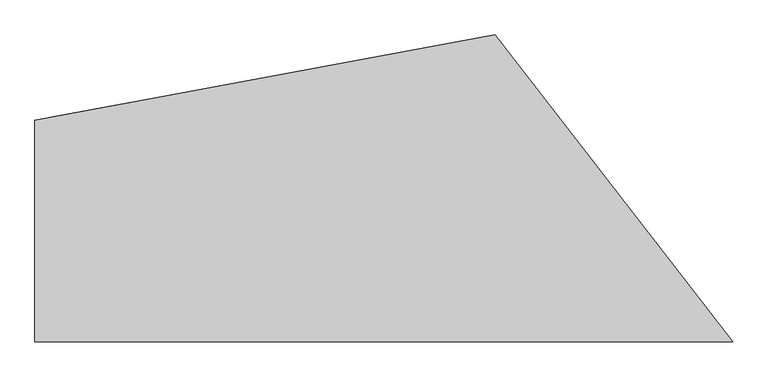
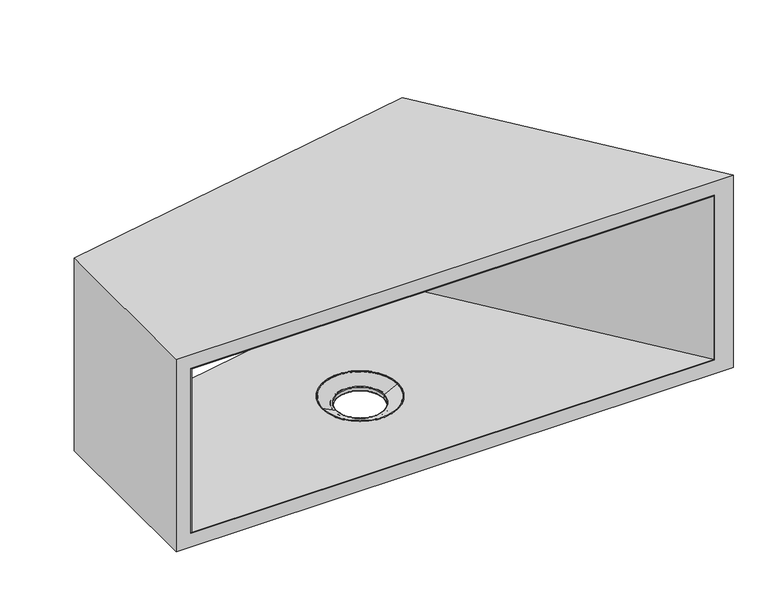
"""IFC4 building model written with IfcOpenShell, lengths in millimetres: furniture geometry, Steelcase Coalesse - Sebastopol - Table - Large : 16'' H - With Gromment."""

import ifcopenshell
import ifcopenshell.guid

model = None  # the IFC model being written
_history = None  # IfcOwnerHistory: only IFC2X3 demands one
_inside = {}  # id of a spatial element -> (the spatial element, [elements in it])
_under = {}  # id of a project, library or spatial element -> (it, [spatial elements below it])
_declared = {}  # id of a project -> (the project, [libraries it declares])
_typed = {}  # id of a type object -> (the type object, [elements of that type])
_made_of = {}  # id of a material, layer set ... -> (it, [elements and type objects made of it])


def new_model(schema):
    """Start an empty IFC model of exactly this schema.

    Asked for "IFC4X3", IfcOpenShell would pick the latest addendum, in which some entities
    have other attributes; the version numbers below select the first issue.
    IFC2X3 requires an IfcOwnerHistory on every rooted entity: one is made here for all.
    """
    global model, _history
    if schema == "IFC4X3":
        model = ifcopenshell.file(schema_version=(4, 3, 0, 0))
    else:
        model = ifcopenshell.file(schema=schema)
    _inside.clear()
    _under.clear()
    _declared.clear()
    _typed.clear()
    _made_of.clear()
    _history = None
    if model.schema == "IFC2X3":
        org = make("IfcOrganization", Name="unknown")
        user = make(
            "IfcPersonAndOrganization",
            ThePerson=make("IfcPerson", FamilyName="unknown"),
            TheOrganization=org,
        )
        app = make(
            "IfcApplication",
            ApplicationDeveloper=org,
            Version="unknown",
            ApplicationFullName="unknown",
            ApplicationIdentifier="unknown",
        )
        _history = make(
            "IfcOwnerHistory",
            OwningUser=user,
            OwningApplication=app,
            ChangeAction="ADDED",
            CreationDate=0,
        )
    return model


def make(cls, **values):
    """One entity of the class cls with the attributes given. An attribute that is None is left unset."""
    return model.create_entity(
        cls, **{name: value for name, value in values.items() if value is not None}
    )


def rooted(cls, **values):
    """An entity with a GlobalId (a new one), such as an element, a storey or a relation."""
    return make(cls, GlobalId=ifcopenshell.guid.new(), OwnerHistory=_history, **values)


def si_unit(unit_type, name, prefix=None):
    """IfcSIUnit, for example si_unit("LENGTHUNIT", "METRE", prefix="MILLI")."""
    return make("IfcSIUnit", UnitType=unit_type, Prefix=prefix, Name=name)


def assignment(units):
    """IfcUnitAssignment: the units of a project."""
    return None if units is None else make("IfcUnitAssignment", Units=units)


def point(xyz):
    """IfcCartesianPoint."""
    return None if xyz is None else make("IfcCartesianPoint", Coordinates=xyz)


def direction(xyz):
    """IfcDirection."""
    return None if xyz is None else make("IfcDirection", DirectionRatios=xyz)


def frame(location, z_axis=None, x_axis=None):
    """IfcAxis2Placement3D, a coordinate frame: its origin and axes. An axis left out is left unset."""
    return make(
        "IfcAxis2Placement3D",
        Location=point(location),
        Axis=direction(z_axis),
        RefDirection=direction(x_axis),
    )


def frame_2d(location, x_axis=None):
    """IfcAxis2Placement2D, a coordinate frame in the plane: its origin and x axis."""
    return make(
        "IfcAxis2Placement2D", Location=point(location), RefDirection=direction(x_axis)
    )


def origin():
    """The frame at (0, 0, 0) with its axes left unset."""
    return frame((0.0, 0.0, 0.0))


def origin_with_axes():
    """The frame at (0, 0, 0) with the z axis (0, 0, 1) and the x axis (1, 0, 0) written out."""
    return frame((0.0, 0.0, 0.0), z_axis=(0.0, 0.0, 1.0), x_axis=(1.0, 0.0, 0.0))


def place(relative_to, where):
    """IfcLocalPlacement: puts the frame where relative to a parent placement (None: the world)."""
    return make(
        "IfcLocalPlacement", PlacementRelTo=relative_to, RelativePlacement=where
    )


def context(
    kind, dimensions, precision=None, world=None, true_north=None, identifier=None
):
    """IfcGeometricRepresentationContext, for example the 3D "Model" context."""
    return make(
        "IfcGeometricRepresentationContext",
        ContextIdentifier=identifier,
        ContextType=kind,
        CoordinateSpaceDimension=dimensions,
        Precision=precision,
        WorldCoordinateSystem=world,
        TrueNorth=true_north,
    )


def project(units=None, contexts=None):
    """IfcProject with its units and contexts."""
    return rooted(
        "IfcProject",
        Name="project",
        RepresentationContexts=contexts,
        UnitsInContext=assignment(units),
    )


def spatial(cls, under=None, at=None, **own):
    """A site, building, storey or space (cls), placed at a placement, below another one or the project."""
    s = rooted(cls, ObjectPlacement=at, **own)
    if under is not None:
        _under.setdefault(under.id(), (under, []))[1].append(s)
    return s


def polyline(points):
    """IfcPolyline through the points."""
    return make("IfcPolyline", Points=[point(p) for p in points])


def circle_curve(where, radius):
    """IfcCircle in the frame where."""
    return make("IfcCircle", Position=where, Radius=radius)


def ellipse_curve(where, semi_axis1, semi_axis2):
    """IfcEllipse in the frame where."""
    return make(
        "IfcEllipse", Position=where, SemiAxis1=semi_axis1, SemiAxis2=semi_axis2
    )


def trimmed(basis, trim1, trim2, sense, master):
    """IfcTrimmedCurve: the piece of a basis curve between two trims."""
    return make(
        "IfcTrimmedCurve",
        BasisCurve=basis,
        Trim1=trim1,
        Trim2=trim2,
        SenseAgreement=sense,
        MasterRepresentation=master,
    )


def segment(curve, same_sense, transition):
    """IfcCompositeCurveSegment."""
    return make(
        "IfcCompositeCurveSegment",
        Transition=transition,
        SameSense=same_sense,
        ParentCurve=curve,
    )


def composite_curve(segments, self_intersect=None):
    """IfcCompositeCurve: segments joined end to end."""
    return make("IfcCompositeCurve", Segments=segments, SelfIntersect=self_intersect)


def outline(outer, holes=None, kind="AREA"):
    """IfcArbitraryClosedProfileDef: a profile drawn as a closed curve; with holes, ...WithVoids."""
    if holes is None:
        return make("IfcArbitraryClosedProfileDef", ProfileType=kind, OuterCurve=outer)
    return make(
        "IfcArbitraryProfileDefWithVoids",
        ProfileType=kind,
        OuterCurve=outer,
        InnerCurves=holes,
    )


def extrude(swept, where, along, depth):
    """IfcExtrudedAreaSolid: the profile swept, set in the frame where, extruded along a direction by depth."""
    return make(
        "IfcExtrudedAreaSolid",
        SweptArea=swept,
        Position=where,
        ExtrudedDirection=direction(along),
        Depth=depth,
    )


def shape(context_of_items, identifier, shape_type, items):
    """IfcShapeRepresentation: the items that make up one representation, for example the "Body"."""
    return make(
        "IfcShapeRepresentation",
        ContextOfItems=context_of_items,
        RepresentationIdentifier=identifier,
        RepresentationType=shape_type,
        Items=items,
    )


def source(mapping_origin, context_of_items, identifier, shape_type, items):
    """IfcRepresentationMap: a shape defined once, which mapped items show again and again."""
    return make(
        "IfcRepresentationMap",
        MappingOrigin=mapping_origin,
        MappedRepresentation=shape(context_of_items, identifier, shape_type, items),
    )


def transform(
    local_origin,
    x_axis=None,
    y_axis=None,
    z_axis=None,
    scale=None,
    scale2=None,
    scale3=None,
    uniform=True,
):
    """IfcCartesianTransformationOperator3D, or its non-uniform kind. x_axis, y_axis, z_axis: its Axis1, 2, 3."""
    if uniform:
        return make(
            "IfcCartesianTransformationOperator3D",
            Axis1=direction(x_axis),
            Axis2=direction(y_axis),
            LocalOrigin=point(local_origin),
            Scale=scale,
            Axis3=direction(z_axis),
        )
    return make(
        "IfcCartesianTransformationOperator3DnonUniform",
        Axis1=direction(x_axis),
        Axis2=direction(y_axis),
        LocalOrigin=point(local_origin),
        Scale=scale,
        Axis3=direction(z_axis),
        Scale2=scale2,
        Scale3=scale3,
    )


def mapped(mapping_source, mapping_target):
    """IfcMappedItem: shows the shape of a source again, moved by a transform."""
    return make(
        "IfcMappedItem", MappingSource=mapping_source, MappingTarget=mapping_target
    )


def made_of(thing, what):
    """Note that an element or type object is made of a material, layer set ...; save() writes the relation."""
    if what is not None:
        _made_of.setdefault(what.id(), (what, []))[1].append(thing)
    return thing


def element(
    cls,
    number,
    at=None,
    inside=None,
    cuts=None,
    type_object=None,
    material=None,
    context=None,
    identifier="Body",
    shape_type=None,
    held_by="IfcProductDefinitionShape",
    body=None,
    shapes=None,
    **own,
):
    """One element of the class cls, such as IfcWall. Its Tag is "e" and its number.

    at: its placement. inside: the storey or other place that contains it. cuts: it is an
    opening in that element (IfcRelVoidsElement). A single representation is given by context,
    identifier, shape_type and body (its items); several are given by shapes. held_by: the class
    of the entity that holds the representations. save() writes the other relations.
    """
    e = rooted(cls, Tag="e%d" % number, ObjectPlacement=at, **own)
    if body is not None:
        shapes = [shape(context, identifier, shape_type, body)]
    if shapes is not None:
        e.Representation = make(held_by, Representations=shapes)
    if inside is not None:
        _inside.setdefault(inside.id(), (inside, []))[1].append(e)
    if cuts is not None:
        rooted(
            "IfcRelVoidsElement", RelatingBuildingElement=cuts, RelatedOpeningElement=e
        )
    if type_object is not None:
        _typed.setdefault(type_object.id(), (type_object, []))[1].append(e)
    return made_of(e, material)


def aggregate(whole, parts):
    """IfcRelAggregates: a whole, such as a stair, and the parts it consists of."""
    return rooted("IfcRelAggregates", RelatingObject=whole, RelatedObjects=parts)


def save(model, path):
    """Write the relations noted so far, then the file.

    IfcRelAggregates (storeys below a building ...), IfcRelContainedInSpatialStructure (elements
    in a storey), IfcRelDefinesByType, IfcRelAssociatesMaterial and IfcRelDeclares: one each for
    every whole, place, type object, material and project.
    """
    for whole, parts in _under.values():
        aggregate(whole, parts)
    for where, things in _inside.values():
        rooted(
            "IfcRelContainedInSpatialStructure",
            RelatedElements=things,
            RelatingStructure=where,
        )
    for kind, things in _typed.values():
        rooted("IfcRelDefinesByType", RelatedObjects=things, RelatingType=kind)
    for what, things in _made_of.values():
        rooted("IfcRelAssociatesMaterial", RelatedObjects=things, RelatingMaterial=what)
    for by, libraries in _declared.values():
        rooted("IfcRelDeclares", RelatingContext=by, RelatedDefinitions=libraries)
    model.write(path)


def plane_surface(at):
    """IfcPlane: the flat surface through the origin of the frame at, square to its z axis."""
    return make("IfcPlane", Position=at)


def cylinder_surface(at, radius):
    """IfcCylindricalSurface: all points at the distance radius from the z axis of the frame at."""
    return make("IfcCylindricalSurface", Position=at, Radius=radius)


def revolved_surface(curve, axis_point, axis_direction):
    """IfcSurfaceOfRevolution: the curve turned about the line through axis_point along axis_direction."""
    return make(
        "IfcSurfaceOfRevolution",
        SweptCurve=make("IfcArbitraryOpenProfileDef", ProfileType="CURVE", Curve=curve),
        AxisPosition=make("IfcAxis1Placement", Location=point(axis_point), Axis=direction(axis_direction)),
    )


def advanced_brep(points, edges, surfaces, faces):
    """IfcAdvancedBrep: a solid bounded by faces that lie on surfaces and meet in shared edges.

    An edge is (start, end): straight between two places in points (the first is 0);
    or (start, end, curve); or (start, end, curve, False) where it runs against its curve.
    A face is (place in surfaces, loops), or (place, loops, False) where it looks against
    its surface's normal. A loop lists edges by number (the first is 1), with a minus sign
    where the edge is run from its end to its start. The first loop is the outer one.
    """
    corners = [point(p) for p in points]
    vertices = [make("IfcVertexPoint", VertexGeometry=c) for c in corners]
    made = []
    for start, end, *more in edges:
        made.append(
            make(
                "IfcEdgeCurve",
                EdgeStart=vertices[start],
                EdgeEnd=vertices[end],
                EdgeGeometry=more[0] if more else make("IfcPolyline", Points=[corners[start], corners[end]]),
                SameSense=more[1] if len(more) > 1 else True,
            )
        )
    hull = []
    for where, loops, *sense in faces:
        bounds = []
        for j, loop in enumerate(loops):
            ring = [make("IfcOrientedEdge", EdgeElement=made[abs(k) - 1], Orientation=k > 0) for k in loop]
            bounds.append(
                make(
                    "IfcFaceOuterBound" if j == 0 else "IfcFaceBound",
                    Bound=make("IfcEdgeLoop", EdgeList=ring),
                    Orientation=True,
                )
            )
        hull.append(make("IfcAdvancedFace", Bounds=bounds, FaceSurface=surfaces[where], SameSense=sense[0] if sense else True))
    return make("IfcAdvancedBrep", Outer=make("IfcClosedShell", CfsFaces=hull))


def furniture_f5551eca(model_context):
    return source(origin(), model_context, "Body", "SolidModel", [
        extrude(outline(polyline([(-386.6129041, 451.557615), (-36.5419736, 0.0), (-1012.5201736, 0.0), (-1012.5201736, 335.5525594), (-386.6129041, 451.557615)]), holes=[composite_curve([segment(trimmed(circle_curve(frame_2d((-584.2000242, 196.215)), 69.5528681), [point((-514.6471561, 196.215))], [point((-653.7528923, 196.215))], True, "CARTESIAN"), True, "CONTINUOUS"), segment(trimmed(circle_curve(frame_2d((-584.2000242, 196.215)), 69.5528681), [point((-653.7528923, 196.215))], [point((-514.6471561, 196.215))], True, "CARTESIAN"), True, "CONTINUOUS")], self_intersect=False)]), frame((0.0, 0.0, 53.0098), z_axis=(0.0, 0.0, 1.0), x_axis=(1.0, 0.0, 0.0)), (0.0, 0.0, 1.0), 1.524),
        advanced_brep(
        [(-628.4624687, 196.215, 41.2015362), (-539.9375798, 196.215, 41.2015362), (-539.3083862, 196.215, 42.1809258), (-629.0916623, 196.215, 42.1809258), (-628.2451274, 196.215, 34.9776975), (-540.154921, 196.215, 34.9776975), (-630.708799, 196.215, 34.9776975), (-537.6912494, 196.215, 34.9776975), (-646.7376888, 196.215, 34.9776975), (-521.6623596, 196.215, 34.9776975), (-646.7376888, 196.215, 36.7445615), (-521.6623596, 196.215, 36.7445615), (-643.8349112, 196.215, 39.7504757), (-524.5651373, 196.215, 39.7504757), (-633.7164271, 196.215, 40.103821), (-534.6836213, 196.215, 40.103821), (-633.4122685, 196.215, 41.5347748), (-534.98778, 196.215, 41.5347748), (-652.7804402, 196.215, 50.9812633), (-515.6196082, 196.215, 50.9812633), (-653.2468556, 196.215, 51.727684), (-515.1531928, 196.215, 51.727684), (-653.2468556, 196.215, 53.0098), (-515.1531928, 196.215, 53.0098), (-656.1507851, 196.215, 53.0098), (-512.2492634, 196.215, 53.0098), (-656.1507851, 196.215, 54.0178131), (-512.2492634, 196.215, 54.0178131), (-654.6374395, 196.215, 54.9531343), (-513.7626089, 196.215, 54.9531343)],
        [
            (0, 1, circle_curve(frame((-584.2000242, 196.215, 41.2015362), z_axis=(0.0, 0.0, -1.0), x_axis=(1.0, 0.0, 0.0)), 44.2624445)),
            (1, 2, circle_curve(frame((-538.7988356, 196.215, 41.1617704), z_axis=(0.0, 1.0, 0.0), x_axis=(0.0, 0.0, 1.0)), 1.1394383)),
            (2, 3, circle_curve(frame((-584.2000242, 196.215, 42.1809258), z_axis=(0.0, 0.0, 1.0), x_axis=(1.0, 0.0, 0.0)), 44.891638)),
            (3, 0, circle_curve(frame((-629.6012128, 196.215, 41.1617704), z_axis=(0.0, 1.0, 0.0), x_axis=(0.0, 0.0, 1.0)), 1.1394383)),
            (1, 0, circle_curve(frame((-584.2000242, 196.215, 41.2015362), z_axis=(0.0, 0.0, -1.0), x_axis=(1.0, 0.0, 0.0)), 44.2624445)),
            (3, 2, circle_curve(frame((-584.2000242, 196.215, 42.1809258), z_axis=(0.0, 0.0, 1.0), x_axis=(1.0, 0.0, 0.0)), 44.891638)),
            (4, 5, circle_curve(frame((-584.2000242, 196.215, 34.9776975), z_axis=(0.0, 0.0, -1.0), x_axis=(1.0, 0.0, 0.0)), 44.0451032)),
            (5, 1),
            (0, 4),
            (5, 4, circle_curve(frame((-584.2000242, 196.215, 34.9776975), z_axis=(0.0, 0.0, -1.0), x_axis=(1.0, 0.0, 0.0)), 44.0451032)),
            (6, 7, circle_curve(frame((-584.2000242, 196.215, 34.9776975), z_axis=(0.0, 0.0, -1.0), x_axis=(1.0, 0.0, 0.0)), 46.5087748)),
            (7, 5, circle_curve(frame((-538.9230852, 196.215, 34.9346809), z_axis=(0.0, 1.0, 0.0), x_axis=(0.0, 0.0, 1.0)), 1.2325866)),
            (4, 6, circle_curve(frame((-629.4769632, 196.215, 34.9346809), z_axis=(0.0, 1.0, 0.0), x_axis=(0.0, 0.0, 1.0)), 1.2325866)),
            (7, 6, circle_curve(frame((-584.2000242, 196.215, 34.9776975), z_axis=(0.0, 0.0, -1.0), x_axis=(1.0, 0.0, 0.0)), 46.5087748)),
            (8, 9, circle_curve(frame((-584.2000242, 196.215, 34.9776975), z_axis=(0.0, 0.0, -1.0), x_axis=(1.0, 0.0, 0.0)), 62.5376646)),
            (9, 7),
            (6, 8),
            (9, 8, circle_curve(frame((-584.2000242, 196.215, 34.9776975), z_axis=(0.0, 0.0, -1.0), x_axis=(1.0, 0.0, 0.0)), 62.5376646)),
            (10, 11, circle_curve(frame((-584.2000242, 196.215, 36.7445615), z_axis=(0.0, 0.0, -1.0), x_axis=(1.0, 0.0, 0.0)), 62.5376646)),
            (11, 9),
            (8, 10),
            (11, 10, circle_curve(frame((-584.2000242, 196.215, 36.7445615), z_axis=(0.0, 0.0, -1.0), x_axis=(1.0, 0.0, 0.0)), 62.5376646)),
            (12, 13, circle_curve(frame((-584.2000242, 196.215, 39.7504757), z_axis=(0.0, 0.0, -1.0), x_axis=(1.0, 0.0, 0.0)), 59.634887)),
            (13, 11, circle_curve(frame((-524.6701061, 196.215, 36.7445615), z_axis=(0.0, 1.0, 0.0), x_axis=(0.0, 0.0, 1.0)), 3.0077465)),
            (10, 12, circle_curve(frame((-643.7299423, 196.215, 36.7445615), z_axis=(0.0, 1.0, 0.0), x_axis=(0.0, 0.0, 1.0)), 3.0077465)),
            (13, 12, circle_curve(frame((-584.2000242, 196.215, 39.7504757), z_axis=(0.0, 0.0, -1.0), x_axis=(1.0, 0.0, 0.0)), 59.634887)),
            (14, 15, circle_curve(frame((-584.2000242, 196.215, 40.103821), z_axis=(0.0, 0.0, -1.0), x_axis=(1.0, 0.0, 0.0)), 49.5164029)),
            (15, 13),
            (12, 14),
            (15, 14, circle_curve(frame((-584.2000242, 196.215, 40.103821), z_axis=(0.0, 0.0, -1.0), x_axis=(1.0, 0.0, 0.0)), 49.5164029)),
            (16, 17, circle_curve(frame((-584.2000242, 196.215, 41.5347748), z_axis=(0.0, 0.0, -1.0), x_axis=(1.0, 0.0, 0.0)), 49.2122443)),
            (17, 15, circle_curve(frame((-534.6573122, 196.215, 40.8572155), z_axis=(0.0, -1.0, 0.0), x_axis=(0.0, 0.0, 1.0)), 0.7538537)),
            (14, 16, circle_curve(frame((-633.7427362, 196.215, 40.8572155), z_axis=(0.0, -1.0, 0.0), x_axis=(0.0, 0.0, 1.0)), 0.7538537)),
            (17, 16, circle_curve(frame((-584.2000242, 196.215, 41.5347748), z_axis=(0.0, 0.0, -1.0), x_axis=(1.0, 0.0, 0.0)), 49.2122443)),
            (18, 19, circle_curve(frame((-584.2000242, 196.215, 50.9812633), z_axis=(0.0, 0.0, -1.0), x_axis=(1.0, 0.0, 0.0)), 68.580416)),
            (19, 17),
            (16, 18),
            (19, 18, circle_curve(frame((-584.2000242, 196.215, 50.9812633), z_axis=(0.0, 0.0, -1.0), x_axis=(1.0, 0.0, 0.0)), 68.580416)),
            (20, 21, circle_curve(frame((-584.2000242, 196.215, 51.727684), z_axis=(0.0, 0.0, -1.0), x_axis=(1.0, 0.0, 0.0)), 69.0468314)),
            (21, 19, circle_curve(frame((-515.9836619, 196.215, 51.727684), z_axis=(0.0, 1.0, 0.0), x_axis=(0.0, 0.0, 1.0)), 0.8304691)),
            (18, 20, circle_curve(frame((-652.4163865, 196.215, 51.727684), z_axis=(0.0, 1.0, 0.0), x_axis=(0.0, 0.0, 1.0)), 0.8304691)),
            (21, 20, circle_curve(frame((-584.2000242, 196.215, 51.727684), z_axis=(0.0, 0.0, -1.0), x_axis=(1.0, 0.0, 0.0)), 69.0468314)),
            (22, 23, circle_curve(frame((-584.2000242, 196.215, 53.0098), z_axis=(0.0, 0.0, -1.0), x_axis=(1.0, 0.0, 0.0)), 69.0468314)),
            (23, 21),
            (20, 22),
            (23, 22, circle_curve(frame((-584.2000242, 196.215, 53.0098), z_axis=(0.0, 0.0, -1.0), x_axis=(1.0, 0.0, 0.0)), 69.0468314)),
            (24, 25, circle_curve(frame((-584.2000242, 196.215, 53.0098), z_axis=(0.0, 0.0, -1.0), x_axis=(1.0, 0.0, 0.0)), 71.9507609)),
            (25, 23),
            (22, 24),
            (25, 24, circle_curve(frame((-584.2000242, 196.215, 53.0098), z_axis=(0.0, 0.0, -1.0), x_axis=(1.0, 0.0, 0.0)), 71.9507609)),
            (26, 27, circle_curve(frame((-584.2000242, 196.215, 54.0178131), z_axis=(0.0, 0.0, -1.0), x_axis=(1.0, 0.0, 0.0)), 71.9507609)),
            (27, 25),
            (24, 26),
            (27, 26, circle_curve(frame((-584.2000242, 196.215, 54.0178131), z_axis=(0.0, 0.0, -1.0), x_axis=(1.0, 0.0, 0.0)), 71.9507609)),
            (28, 29, circle_curve(frame((-584.2000242, 196.215, 54.9531343), z_axis=(0.0, 0.0, -1.0), x_axis=(1.0, 0.0, 0.0)), 70.4374153)),
            (29, 27, circle_curve(frame((-513.2949732, 196.215, 54.0178131), z_axis=(0.0, 1.0, 0.0), x_axis=(0.0, 0.0, 1.0)), 1.0457098)),
            (26, 28, circle_curve(frame((-655.1050753, 196.215, 54.0178131), z_axis=(0.0, 1.0, 0.0), x_axis=(0.0, 0.0, 1.0)), 1.0457098)),
            (29, 28, circle_curve(frame((-584.2000242, 196.215, 54.9531343), z_axis=(0.0, 0.0, -1.0), x_axis=(1.0, 0.0, 0.0)), 70.4374153)),
            (2, 29),
            (28, 3),
        ],
        [
            revolved_surface(trimmed(ellipse_curve(frame((-538.7988356, 196.215, 41.1617704), z_axis=(0.0, -1.0, 0.0), x_axis=(0.0, 0.0, 1.0)), 1.1394383, 1.1394383), [point((-539.3083862, 196.215, 42.1809258))], [point((-539.9375798, 196.215, 41.2015362))], True, "CARTESIAN"), (-584.2000242, 196.215, 34.9776975), (0.0, 0.0, 1.0)),
            revolved_surface(polyline([(-539.9375798, 196.215, 41.2015362), (-540.154921, 196.215, 34.9776975)]), (-584.2000242, 196.215, 34.9776975), (0.0, 0.0, 1.0)),
            revolved_surface(trimmed(ellipse_curve(frame((-538.9230852, 196.215, 34.9346809), z_axis=(0.0, -1.0, 0.0), x_axis=(0.0, 0.0, 1.0)), 1.2325866, 1.2325866), [point((-540.154921, 196.215, 34.9776975))], [point((-537.6912494, 196.215, 34.9776975))], True, "CARTESIAN"), (-584.2000242, 196.215, 34.9776975), (0.0, 0.0, 1.0)),
            plane_surface(frame((-584.2000242, 196.215, 34.9776975), z_axis=(0.0, 0.0, -1.0), x_axis=(1.0, 0.0, 0.0))),
            cylinder_surface(frame((-584.2000242, 196.215, 34.9776975), z_axis=(0.0, 0.0, 1.0), x_axis=(1.0, 0.0, 0.0)), 62.5376646),
            revolved_surface(trimmed(ellipse_curve(frame((-524.6701061, 196.215, 36.7445615), z_axis=(0.0, -1.0, 0.0), x_axis=(0.0, 0.0, 1.0)), 3.0077465, 3.0077465), [point((-521.6623596, 196.215, 36.7445615))], [point((-524.5651373, 196.215, 39.7504757))], True, "CARTESIAN"), (-584.2000242, 196.215, 34.9776975), (0.0, 0.0, 1.0)),
            revolved_surface(polyline([(-524.5651373, 196.215, 39.7504757), (-534.6836213, 196.215, 40.103821)]), (-584.2000242, 196.215, 34.9776975), (0.0, 0.0, 1.0)),
            revolved_surface(trimmed(ellipse_curve(frame((-534.6573122, 196.215, 40.8572155), z_axis=(0.0, 1.0, 0.0), x_axis=(0.0, 0.0, 1.0)), 0.7538537, 0.7538537), [point((-534.6836213, 196.215, 40.103821))], [point((-534.98778, 196.215, 41.5347748))], True, "CARTESIAN"), (-584.2000242, 196.215, 34.9776975), (0.0, 0.0, 1.0)),
            revolved_surface(polyline([(-534.98778, 196.215, 41.5347748), (-515.6196082, 196.215, 50.9812633)]), (-584.2000242, 196.215, 34.9776975), (0.0, 0.0, 1.0)),
            revolved_surface(trimmed(ellipse_curve(frame((-515.9836619, 196.215, 51.727684), z_axis=(0.0, -1.0, 0.0), x_axis=(0.0, 0.0, 1.0)), 0.8304691, 0.8304691), [point((-515.6196082, 196.215, 50.9812633))], [point((-515.1531928, 196.215, 51.727684))], True, "CARTESIAN"), (-584.2000242, 196.215, 34.9776975), (0.0, 0.0, 1.0)),
            cylinder_surface(frame((-584.2000242, 196.215, 34.9776975), z_axis=(0.0, 0.0, 1.0), x_axis=(1.0, 0.0, 0.0)), 69.0468314),
            plane_surface(frame((-584.2000242, 196.215, 53.0098), z_axis=(0.0, 0.0, -1.0), x_axis=(1.0, 0.0, 0.0))),
            cylinder_surface(frame((-584.2000242, 196.215, 34.9776975), z_axis=(0.0, 0.0, 1.0), x_axis=(1.0, 0.0, 0.0)), 71.9507609),
            revolved_surface(trimmed(ellipse_curve(frame((-513.2949732, 196.215, 54.0178131), z_axis=(0.0, -1.0, 0.0), x_axis=(0.0, 0.0, 1.0)), 1.0457098, 1.0457098), [point((-512.2492634, 196.215, 54.0178131))], [point((-513.7626089, 196.215, 54.9531343))], True, "CARTESIAN"), (-584.2000242, 196.215, 34.9776975), (0.0, 0.0, 1.0)),
            revolved_surface(polyline([(-513.7626089, 196.215, 54.9531343), (-539.3083862, 196.215, 42.1809258)]), (-584.2000242, 196.215, 34.9776975), (0.0, 0.0, 1.0)),
        ],
        [
            (0, [[1, 2, 3, 4]]),
            (0, [[5, -4, 6, -2]]),
            (1, [[7, 8, -1, 9]]),
            (1, [[10, -9, -5, -8]]),
            (2, [[11, 12, -7, 13]]),
            (2, [[14, -13, -10, -12]]),
            (3, [[15, 16, -11, 17]]),
            (3, [[18, -17, -14, -16]]),
            (4, [[19, 20, -15, 21]]),
            (4, [[22, -21, -18, -20]]),
            (5, [[23, 24, -19, 25]]),
            (5, [[26, -25, -22, -24]]),
            (6, [[27, 28, -23, 29]]),
            (6, [[30, -29, -26, -28]]),
            (7, [[31, 32, -27, 33]]),
            (7, [[34, -33, -30, -32]]),
            (8, [[35, 36, -31, 37]]),
            (8, [[38, -37, -34, -36]]),
            (9, [[39, 40, -35, 41]]),
            (9, [[42, -41, -38, -40]]),
            (10, [[43, 44, -39, 45]]),
            (10, [[46, -45, -42, -44]]),
            (11, [[47, 48, -43, 49]]),
            (11, [[50, -49, -46, -48]]),
            (12, [[51, 52, -47, 53]]),
            (12, [[54, -53, -50, -52]]),
            (13, [[55, 56, -51, 57]]),
            (13, [[58, -57, -54, -56]]),
            (14, [[-3, 59, -55, 60]]),
            (14, [[-6, -60, -58, -59]]),
        ],
    ),
        extrude(outline(composite_curve([segment(trimmed(circle_curve(frame_2d((-409.0244772, 393.2172198)), 4.826), [point((-413.8504772, 393.2172198))], [point((-404.1984772, 393.2172198))], False, "CARTESIAN"), True, "CONTINUOUS"), segment(trimmed(circle_curve(frame_2d((-409.0244772, 393.2172198)), 4.826), [point((-404.1984772, 393.2172198))], [point((-413.8504772, 393.2172198))], False, "CARTESIAN"), True, "CONTINUOUS")], self_intersect=False)), frame((0.0, 0.0, 13.97), z_axis=(0.0, 0.0, 1.0), x_axis=(1.0, 0.0, 0.0)), (0.0, 0.0, 1.0), 11.4300008),
        extrude(outline(composite_curve([segment(trimmed(circle_curve(frame_2d((-409.0099832, 393.153578)), 17.526), [point((-426.5359832, 393.153578))], [point((-391.4839832, 393.153578))], False, "CARTESIAN"), True, "CONTINUOUS"), segment(trimmed(circle_curve(frame_2d((-409.0099832, 393.153578)), 17.526), [point((-391.4839832, 393.153578))], [point((-426.5359832, 393.153578))], False, "CARTESIAN"), True, "CONTINUOUS")], self_intersect=False)), origin_with_axes(), (0.0, 0.0, 1.0), 13.97),
        extrude(outline(composite_curve([segment(trimmed(circle_curve(frame_2d((-987.4333665, 285.936034)), 4.826), [point((-992.2593665, 285.936034))], [point((-982.6073665, 285.936034))], False, "CARTESIAN"), True, "CONTINUOUS"), segment(trimmed(circle_curve(frame_2d((-987.4333665, 285.936034)), 4.826), [point((-982.6073665, 285.936034))], [point((-992.2593665, 285.936034))], False, "CARTESIAN"), True, "CONTINUOUS")], self_intersect=False)), frame((0.0, 0.0, 13.97), z_axis=(0.0, 0.0, 1.0), x_axis=(1.0, 0.0, 0.0)), (0.0, 0.0, 1.0), 11.4300008),
        extrude(outline(composite_curve([segment(trimmed(circle_curve(frame_2d((-987.4188726, 285.8723922)), 17.526), [point((-1004.9448726, 285.8723922))], [point((-969.8928726, 285.8723922))], False, "CARTESIAN"), True, "CONTINUOUS"), segment(trimmed(circle_curve(frame_2d((-987.4188726, 285.8723922)), 17.526), [point((-969.8928726, 285.8723922))], [point((-1004.9448726, 285.8723922))], False, "CARTESIAN"), True, "CONTINUOUS")], self_intersect=False)), origin_with_axes(), (0.0, 0.0, 1.0), 13.97),
        extrude(outline(composite_curve([segment(trimmed(circle_curve(frame_2d((-144.7693521, 53.3510514)), 4.826), [point((-149.5953521, 53.3510514))], [point((-139.9433521, 53.3510514))], False, "CARTESIAN"), True, "CONTINUOUS"), segment(trimmed(circle_curve(frame_2d((-144.7693521, 53.3510514)), 4.826), [point((-139.9433521, 53.3510514))], [point((-149.5953521, 53.3510514))], False, "CARTESIAN"), True, "CONTINUOUS")], self_intersect=False)), frame((0.0, 0.0, 13.97), z_axis=(0.0, 0.0, 1.0), x_axis=(1.0, 0.0, 0.0)), (0.0, 0.0, 1.0), 11.4300008),
        extrude(outline(composite_curve([segment(trimmed(circle_curve(frame_2d((-144.7548582, 53.2874096)), 17.526), [point((-162.2808582, 53.2874096))], [point((-127.2288582, 53.2874096))], False, "CARTESIAN"), True, "CONTINUOUS"), segment(trimmed(circle_curve(frame_2d((-144.7548582, 53.2874096)), 17.526), [point((-127.2288582, 53.2874096))], [point((-162.2808582, 53.2874096))], False, "CARTESIAN"), True, "CONTINUOUS")], self_intersect=False)), origin_with_axes(), (0.0, 0.0, 1.0), 13.97),
        extrude(outline(composite_curve([segment(trimmed(circle_curve(frame_2d((-987.4333665, 53.3510514)), 4.826), [point((-992.2593665, 53.3510514))], [point((-982.6073665, 53.3510514))], False, "CARTESIAN"), True, "CONTINUOUS"), segment(trimmed(circle_curve(frame_2d((-987.4333665, 53.3510514)), 4.826), [point((-982.6073665, 53.3510514))], [point((-992.2593665, 53.3510514))], False, "CARTESIAN"), True, "CONTINUOUS")], self_intersect=False)), frame((0.0, 0.0, 13.97), z_axis=(0.0, 0.0, 1.0), x_axis=(1.0, 0.0, 0.0)), (0.0, 0.0, 1.0), 11.4300008),
        extrude(outline(composite_curve([segment(trimmed(circle_curve(frame_2d((-987.4188726, 53.2874096)), 17.526), [point((-1004.9448726, 53.2874096))], [point((-969.8928726, 53.2874096))], False, "CARTESIAN"), True, "CONTINUOUS"), segment(trimmed(circle_curve(frame_2d((-987.4188726, 53.2874096)), 17.526), [point((-969.8928726, 53.2874096))], [point((-1004.9448726, 53.2874096))], False, "CARTESIAN"), True, "CONTINUOUS")], self_intersect=False)), origin_with_axes(), (0.0, 0.0, 1.0), 13.97),
        extrude(outline(polyline([(-385.2078427, 451.8180277), (-34.9350268, 0.0), (-36.5419734, 0.0), (-386.6129039, 451.557615), (-385.2078427, 451.8180277)])), frame((0.0, 0.0, 53.0098), z_axis=(0.0, 0.0, 1.0), x_axis=(1.0, 0.0, 0.0)), (0.0, 0.0, 1.0), 325.7803879),
        extrude(outline(polyline([(-1012.5201736, 0.0), (-1013.7902, 0.0), (-1013.7902, 335.317178), (-1012.5201736, 335.5525634), (-1012.5201736, 0.0)])), frame((0.0, 0.0, 53.0098), z_axis=(0.0, 0.0, 1.0), x_axis=(1.0, 0.0, 0.0)), (0.0, 0.0, 1.0), 325.7803879),
        extrude(outline(polyline([(-386.6129041, 451.557615), (-36.5419736, 0.0), (-1012.5201736, 0.0), (-1012.5201736, 335.5525594), (-386.6129041, 451.557615)])), frame((0.0, 0.0, 377.2661879), z_axis=(0.0, 0.0, 1.0), x_axis=(1.0, 0.0, 0.0)), (0.0, 0.0, 1.0), 1.524),
        advanced_brep(
        [(-1041.4000242, 330.1999955, 406.4), (-1041.4000242, 0.0, 406.4), (0.0, 0.0, 406.4), (-354.6618066, 457.4794009, 406.4), (-1041.4000242, 330.1999955, 25.4000008), (-354.6618066, 457.4794009, 25.4000008), (0.0, 0.0, 25.4000008), (-1041.4000242, 0.0, 25.4000008), (-514.6471561, 196.215, 25.4000008), (-653.7528923, 196.215, 25.4000008), (-1013.7902, 0.0, 378.7901879), (-34.9350268, 0.0, 378.7901879), (-34.9350268, 0.0, 53.0098), (-1013.7902, 0.0, 53.0098), (-385.2078427, 451.8180277, 378.7901879), (-1013.7902, 335.317174, 378.7901879), (-1013.7902, 335.317174, 53.0098), (-385.2078427, 451.8180277, 53.0098), (-653.7528923, 196.215, 53.0098), (-514.6471561, 196.215, 53.0098)],
        [
            (0, 1),
            (1, 2),
            (2, 3),
            (3, 0),
            (4, 5),
            (5, 6),
            (6, 7),
            (7, 4),
            (8, 9, circle_curve(frame((-584.2000242, 196.215, 25.4000008), z_axis=(0.0, 0.0, 1.0), x_axis=(1.0, 0.0, 0.0)), 69.5528681)),
            (9, 8, circle_curve(frame((-584.2000242, 196.215, 25.4000008), z_axis=(0.0, 0.0, 1.0), x_axis=(1.0, 0.0, 0.0)), 69.5528681)),
            (0, 4),
            (7, 1),
            (6, 2),
            (10, 11),
            (11, 12),
            (12, 13),
            (13, 10),
            (5, 3),
            (14, 15),
            (15, 16),
            (16, 17),
            (17, 14),
            (14, 11),
            (10, 15),
            (16, 13),
            (12, 17),
            (18, 19, circle_curve(frame((-584.2000242, 196.215, 53.0098), z_axis=(0.0, 0.0, -1.0), x_axis=(1.0, 0.0, 0.0)), 69.5528681)),
            (19, 18, circle_curve(frame((-584.2000242, 196.215, 53.0098), z_axis=(0.0, 0.0, -1.0), x_axis=(1.0, 0.0, 0.0)), 69.5528681)),
            (18, 9),
            (8, 19),
        ],
        [
            plane_surface(frame((-1041.4000242, 330.2000121, 406.4), z_axis=(0.0, 0.0, 1.0), x_axis=(0.0, -1.0, 0.0))),
            plane_surface(frame((-1041.4000242, 330.2000121, 25.4000008), z_axis=(0.0, 0.0, -1.0), x_axis=(0.0, 1.0, 0.0))),
            plane_surface(frame((-1041.4000242, 330.1999955, 406.4), z_axis=(-1.0, 0.0, 0.0), x_axis=(0.0, 0.0, -1.0))),
            plane_surface(frame((-1041.4000242, 0.0, 406.4), z_axis=(0.0, -1.0, 0.0), x_axis=(0.0, 0.0, -1.0))),
            plane_surface(frame((0.0, 0.0, 406.4), z_axis=(0.7903186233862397, 0.6126960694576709, 0.0), x_axis=(0.0, 0.0, -1.0))),
            plane_surface(frame((-354.6618066, 457.4794009, 406.4), z_axis=(-0.18223552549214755, 0.9832549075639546, 0.0), x_axis=(0.0, 0.0, -1.0))),
            plane_surface(frame((-1013.7902, 330.1999955, 378.7901879), z_axis=(0.0, 0.0, -1.0), x_axis=(0.0, -1.0, 0.0))),
            plane_surface(frame((-1013.7902, 330.1999955, 53.0098), z_axis=(0.0, 0.0, 1.0), x_axis=(0.0, 1.0, 0.0))),
            plane_surface(frame((-1013.7902, 335.317174, 378.7901879), z_axis=(1.0, 0.0, 0.0), x_axis=(0.0, 0.0, -1.0))),
            plane_surface(frame((-34.9350268, 0.0, 378.7901879), z_axis=(-0.7903186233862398, -0.6126960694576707, 0.0), x_axis=(0.0, 0.0, -1.0))),
            revolved_surface(polyline([(-514.6471561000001, 196.215, 53.0098), (-514.6471561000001, 196.215, 25.4000008)]), (-584.2000242, 196.215, -63.5), (0.0, 0.0, 1.0)),
        ],
        [
            (0, [[1, 2, 3, 4]]),
            (1, [[5, 6, 7, 8], [9, 10]]),
            (2, [[-1, 11, -8, 12]]),
            (3, [[-2, -12, -7, 13], [14, 15, 16, 17]]),
            (4, [[-3, -13, -6, 18]]),
            (5, [[-4, -18, -5, -11], [19, 20, 21, 22]]),
            (6, [[23, -14, 24, -19]]),
            (7, [[25, -16, 26, -21], [27, 28]]),
            (8, [[-24, -17, -25, -20]]),
            (9, [[-23, -22, -26, -15]]),
            (10, [[29, -9, 30, -27]]),
            (10, [[-29, -28, -30, -10]]),
        ],
    ),
    ])


if __name__ == "__main__":
    model = new_model("IFC4")
    model_context = context("Model", 3, world=origin())
    ifc_project = project(units=[si_unit("LENGTHUNIT", "METRE", prefix="MILLI")], contexts=[model_context])
    site = spatial("IfcSite", under=ifc_project)
    building = spatial("IfcBuilding", under=site)
    placement = place(None, origin())
    furniture_shape = furniture_f5551eca(model_context)
    element("IfcFurniture", 1, ObjectType="Steelcase Coalesse - Sebastopol - Table - Large : 16'' H - With Gromment", at=placement, inside=building, context=model_context, shape_type="MappedRepresentation", body=[
        mapped(furniture_shape, transform((0.0, 0.0, 0.0), x_axis=(1.0, 0.0, 0.0), y_axis=(0.0, 1.0, 0.0), z_axis=(0.0, 0.0, 1.0))),
    ])
    save(model, "model.ifc")
